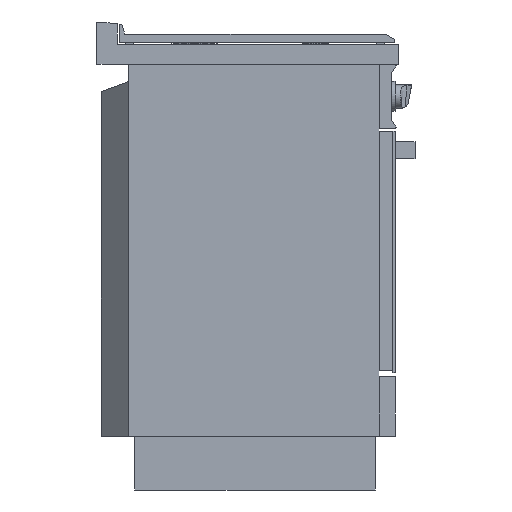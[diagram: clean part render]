
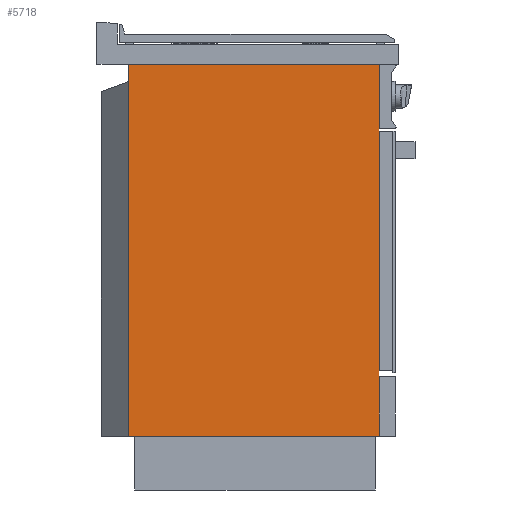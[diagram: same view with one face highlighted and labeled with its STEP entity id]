
A CAD part, left-side view. The second image highlights one B-rep face of the part: STEP entity #5718.
In plain terms, the highlighted planar face has unit normal (-1, 0, 0).
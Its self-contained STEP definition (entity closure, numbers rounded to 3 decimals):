
#1498=LINE('',#27512,#2974);
#1501=LINE('',#27518,#2977);
#1502=LINE('',#27520,#2978);
#1503=LINE('',#27522,#2979);
#2974=VECTOR('',#19339,1.);
#2977=VECTOR('',#19344,1.);
#2978=VECTOR('',#19345,1.);
#2979=VECTOR('',#19346,1.);
#4878=PLANE('',#15824);
#5718=ADVANCED_FACE('',(#6429),#4878,.T.);
#6429=FACE_OUTER_BOUND('',#7420,.T.);
#7420=EDGE_LOOP('',(#11212,#11213,#11214,#11215));
#11212=ORIENTED_EDGE('',*,*,#14568,.T.);
#11213=ORIENTED_EDGE('',*,*,#14571,.T.);
#11214=ORIENTED_EDGE('',*,*,#14572,.T.);
#11215=ORIENTED_EDGE('',*,*,#14573,.T.);
#12647=VERTEX_POINT('',#27511);
#12648=VERTEX_POINT('',#27513);
#12650=VERTEX_POINT('',#27519);
#12651=VERTEX_POINT('',#27521);
#14568=EDGE_CURVE('',#12648,#12647,#1498,.T.);
#14571=EDGE_CURVE('',#12647,#12650,#1501,.T.);
#14572=EDGE_CURVE('',#12650,#12651,#1502,.T.);
#14573=EDGE_CURVE('',#12651,#12648,#1503,.T.);
#15824=AXIS2_PLACEMENT_3D('',#27523,#19347,#19348);
#19339=DIRECTION('',(0.,1.,0.));
#19344=DIRECTION('',(0.,0.,-1.));
#19345=DIRECTION('',(0.,-1.,0.));
#19346=DIRECTION('',(0.,0.,1.));
#19347=DIRECTION('',(-1.,0.,0.));
#19348=DIRECTION('',(0.,-1.,0.));
#27511=CARTESIAN_POINT('',(-199.375,510.975,386.574));
#27512=CARTESIAN_POINT('',(-199.375,10.975,386.574));
#27513=CARTESIAN_POINT('',(-199.375,10.975,386.574));
#27518=CARTESIAN_POINT('',(-199.375,510.975,-356.226));
#27519=CARTESIAN_POINT('',(-199.375,510.975,-356.226));
#27520=CARTESIAN_POINT('',(-199.375,565.975,-356.226));
#27521=CARTESIAN_POINT('',(-199.375,10.975,-356.226));
#27522=CARTESIAN_POINT('',(-199.375,10.975,-356.226));
#27523=CARTESIAN_POINT('',(-199.375,565.975,-356.226));
